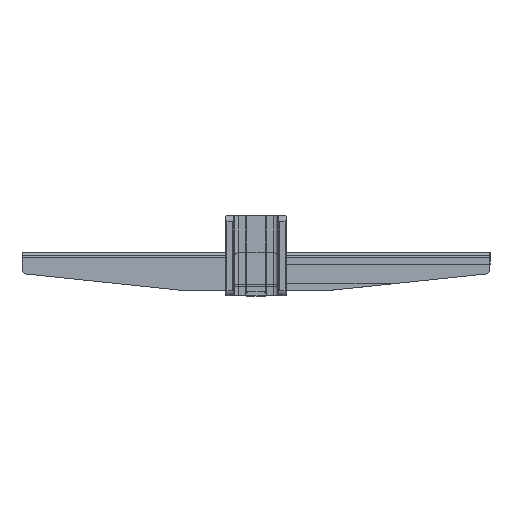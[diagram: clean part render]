
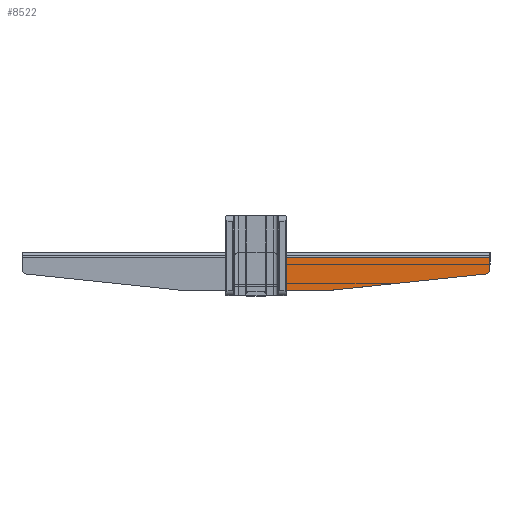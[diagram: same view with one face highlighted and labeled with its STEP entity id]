
A CAD part, front view. The second image highlights one B-rep face of the part: STEP entity #8522.
In plain terms, the highlighted planar face has unit normal (0, -1, 0).
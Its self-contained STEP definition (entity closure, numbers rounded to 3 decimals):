
#9 = DIRECTION ( 'NONE',  ( 0., -1., 0. ) ) ;
#100 = DIRECTION ( 'NONE',  ( 0., 0., 1. ) ) ;
#251 = DIRECTION ( 'NONE',  ( -1., 0., 0. ) ) ;
#340 = LINE ( 'NONE', #17201, #13267 ) ;
#350 = VECTOR ( 'NONE', #14724, 1000. ) ;
#358 = EDGE_CURVE ( 'NONE', #4128, #2454, #17397, .T. ) ;
#372 = AXIS2_PLACEMENT_3D ( 'NONE', #5702, #9, #100 ) ;
#647 = CARTESIAN_POINT ( 'NONE',  ( 37.5, 5118.25, 1578. ) ) ;
#666 = VECTOR ( 'NONE', #6992, 1000. ) ;
#812 = CARTESIAN_POINT ( 'NONE',  ( 157., 5118.25, 1590.223 ) ) ;
#999 = CARTESIAN_POINT ( 'NONE',  ( 37.5, 5118.25, 1581.8 ) ) ;
#1054 = DIRECTION ( 'NONE',  ( 0., 0., -1. ) ) ;
#1185 = DIRECTION ( 'NONE',  ( 0., 0., 1. ) ) ;
#1460 = EDGE_CURVE ( 'NONE', #14832, #15021, #8102, .T. ) ;
#1659 = DIRECTION ( 'NONE',  ( 0., 0., -1. ) ) ;
#1777 = CARTESIAN_POINT ( 'NONE',  ( 37.5, 5118.25, 1596.8 ) ) ;
#1953 = LINE ( 'NONE', #11577, #12627 ) ;
#2018 = DIRECTION ( 'NONE',  ( 0., -1., 0. ) ) ;
#2317 = DIRECTION ( 'NONE',  ( 0., 0., 1. ) ) ;
#2450 = CARTESIAN_POINT ( 'NONE',  ( 556.85, 5118.25, 1577.8 ) ) ;
#2454 = VERTEX_POINT ( 'NONE', #10913 ) ;
#2515 = EDGE_CURVE ( 'NONE', #9038, #11850, #12763, .T. ) ;
#2583 = CARTESIAN_POINT ( 'NONE',  ( 36.2, 5118.25, 1582.3 ) ) ;
#2624 = CARTESIAN_POINT ( 'NONE',  ( 37.35, 5118.25, 1581.8 ) ) ;
#3083 = EDGE_CURVE ( 'NONE', #6850, #14832, #4409, .T. ) ;
#3681 = DIRECTION ( 'NONE',  ( 0., 0., 1. ) ) ;
#3831 = VERTEX_POINT ( 'NONE', #5420 ) ;
#3847 = LINE ( 'NONE', #2450, #13055 ) ;
#4128 = VERTEX_POINT ( 'NONE', #647 ) ;
#4409 = CIRCLE ( 'NONE', #6805, 0.5 ) ;
#4509 = VERTEX_POINT ( 'NONE', #17934 ) ;
#4533 = EDGE_CURVE ( 'NONE', #9875, #4509, #12336, .T. ) ;
#4710 = EDGE_CURVE ( 'NONE', #5818, #9875, #9504, .T. ) ;
#4723 = ORIENTED_EDGE ( 'NONE', *, *, #3083, .T. ) ;
#5163 = AXIS2_PLACEMENT_3D ( 'NONE', #16448, #6421, #16266 ) ;
#5183 = DIRECTION ( 'NONE',  ( 0.995, 0., 0.105 ) ) ;
#5420 = CARTESIAN_POINT ( 'NONE',  ( 36.2, 5118.25, 1592.8 ) ) ;
#5702 = CARTESIAN_POINT ( 'NONE',  ( 36.2, 5118.25, 1592.3 ) ) ;
#5818 = VERTEX_POINT ( 'NONE', #1777 ) ;
#5982 = CIRCLE ( 'NONE', #15568, 5. ) ;
#6032 = AXIS2_PLACEMENT_3D ( 'NONE', #6608, #8282, #1185 ) ;
#6294 = DIRECTION ( 'NONE',  ( 0., -1., 0. ) ) ;
#6421 = DIRECTION ( 'NONE',  ( 0., 1., 0. ) ) ;
#6608 = CARTESIAN_POINT ( 'NONE',  ( 37.7, 5118.25, 1578. ) ) ;
#6632 = ORIENTED_EDGE ( 'NONE', *, *, #16090, .T. ) ;
#6670 = ORIENTED_EDGE ( 'NONE', *, *, #1460, .T. ) ;
#6727 = ORIENTED_EDGE ( 'NONE', *, *, #18326, .T. ) ;
#6805 = AXIS2_PLACEMENT_3D ( 'NONE', #2583, #11081, #16985 ) ;
#6808 = CARTESIAN_POINT ( 'NONE',  ( 67.238, 5118.25, 1577.8 ) ) ;
#6850 = VERTEX_POINT ( 'NONE', #17965 ) ;
#6992 = DIRECTION ( 'NONE',  ( 1., 0., 0. ) ) ;
#7418 = CARTESIAN_POINT ( 'NONE',  ( 37.5, 5118.25, 1581.65 ) ) ;
#7605 = CARTESIAN_POINT ( 'NONE',  ( 160., 5118.25, 1596.8 ) ) ;
#7636 = VERTEX_POINT ( 'NONE', #10358 ) ;
#7641 = ORIENTED_EDGE ( 'NONE', *, *, #15864, .T. ) ;
#7702 = VERTEX_POINT ( 'NONE', #9273 ) ;
#7977 = LINE ( 'NONE', #12283, #14892 ) ;
#8060 = CARTESIAN_POINT ( 'NONE',  ( 35.7, 5118.25, 1599.8 ) ) ;
#8102 = LINE ( 'NONE', #999, #666 ) ;
#8207 = CIRCLE ( 'NONE', #11206, 0.15 ) ;
#8215 = EDGE_CURVE ( 'NONE', #15021, #13100, #8207, .T. ) ;
#8282 = DIRECTION ( 'NONE',  ( 0., -1., 0. ) ) ;
#8359 = EDGE_CURVE ( 'NONE', #4509, #3831, #340, .T. ) ;
#8522 = ADVANCED_FACE ( 'NONE', ( #10797 ), #13704, .T. ) ;
#8813 = ORIENTED_EDGE ( 'NONE', *, *, #358, .T. ) ;
#8999 = LINE ( 'NONE', #7605, #350 ) ;
#9019 = CARTESIAN_POINT ( 'NONE',  ( 556.85, 5118.25, 1599.8 ) ) ;
#9038 = VERTEX_POINT ( 'NONE', #12823 ) ;
#9273 = CARTESIAN_POINT ( 'NONE',  ( 160., 5118.25, 1596.8 ) ) ;
#9397 = CARTESIAN_POINT ( 'NONE',  ( 160., 5118.25, 1590.223 ) ) ;
#9504 = LINE ( 'NONE', #11104, #13787 ) ;
#9554 = ORIENTED_EDGE ( 'NONE', *, *, #4710, .T. ) ;
#9875 = VERTEX_POINT ( 'NONE', #10138 ) ;
#9883 = DIRECTION ( 'NONE',  ( 0., 1., 0. ) ) ;
#9989 = ORIENTED_EDGE ( 'NONE', *, *, #14827, .T. ) ;
#10138 = CARTESIAN_POINT ( 'NONE',  ( 37.5, 5118.25, 1592.95 ) ) ;
#10214 = CIRCLE ( 'NONE', #372, 0.5 ) ;
#10358 = CARTESIAN_POINT ( 'NONE',  ( 35.7, 5118.25, 1592.3 ) ) ;
#10511 = VECTOR ( 'NONE', #1659, 1000. ) ;
#10544 = EDGE_CURVE ( 'NONE', #15386, #2454, #3847, .T. ) ;
#10741 = VECTOR ( 'NONE', #1054, 1000. ) ;
#10797 = FACE_OUTER_BOUND ( 'NONE', #13269, .T. ) ;
#10847 = ORIENTED_EDGE ( 'NONE', *, *, #8359, .T. ) ;
#10913 = CARTESIAN_POINT ( 'NONE',  ( 37.7, 5118.25, 1577.8 ) ) ;
#11009 = DIRECTION ( 'NONE',  ( 0., 0., 1. ) ) ;
#11081 = DIRECTION ( 'NONE',  ( 0., -1., 0. ) ) ;
#11104 = CARTESIAN_POINT ( 'NONE',  ( 37.5, 5118.25, 1599.8 ) ) ;
#11206 = AXIS2_PLACEMENT_3D ( 'NONE', #15602, #9883, #11009 ) ;
#11269 = ORIENTED_EDGE ( 'NONE', *, *, #8215, .T. ) ;
#11320 = ORIENTED_EDGE ( 'NONE', *, *, #12188, .T. ) ;
#11577 = CARTESIAN_POINT ( 'NONE',  ( 160., 5118.25, 1599.8 ) ) ;
#11850 = VERTEX_POINT ( 'NONE', #9397 ) ;
#11912 = DIRECTION ( 'NONE',  ( 1., 0., 0. ) ) ;
#12188 = EDGE_CURVE ( 'NONE', #7636, #6850, #15083, .T. ) ;
#12283 = CARTESIAN_POINT ( 'NONE',  ( 556.85, 5118.25, 1629.233 ) ) ;
#12336 = CIRCLE ( 'NONE', #5163, 0.15 ) ;
#12589 = DIRECTION ( 'NONE',  ( 0., 0., -1. ) ) ;
#12627 = VECTOR ( 'NONE', #17305, 1000. ) ;
#12763 = CIRCLE ( 'NONE', #15771, 3. ) ;
#12823 = CARTESIAN_POINT ( 'NONE',  ( 157.314, 5118.25, 1587.24 ) ) ;
#12997 = ORIENTED_EDGE ( 'NONE', *, *, #14290, .T. ) ;
#13055 = VECTOR ( 'NONE', #13654, 1000. ) ;
#13100 = VERTEX_POINT ( 'NONE', #7418 ) ;
#13267 = VECTOR ( 'NONE', #251, 1000. ) ;
#13269 = EDGE_LOOP ( 'NONE', ( #14099, #6632, #6727, #17507, #13766, #7641, #9554, #17637, #10847, #9989, #11320, #4723, #6670, #11269, #12997, #8813 ) ) ;
#13654 = DIRECTION ( 'NONE',  ( -1., 0., 0. ) ) ;
#13704 = PLANE ( 'NONE',  #14794 ) ;
#13718 = DIRECTION ( 'NONE',  ( 0., -1., 0. ) ) ;
#13766 = ORIENTED_EDGE ( 'NONE', *, *, #15154, .F. ) ;
#13787 = VECTOR ( 'NONE', #12589, 1000. ) ;
#14099 = ORIENTED_EDGE ( 'NONE', *, *, #10544, .F. ) ;
#14290 = EDGE_CURVE ( 'NONE', #13100, #4128, #15881, .T. ) ;
#14336 = CARTESIAN_POINT ( 'NONE',  ( 67.761, 5118.25, 1577.827 ) ) ;
#14459 = VERTEX_POINT ( 'NONE', #14336 ) ;
#14472 = CARTESIAN_POINT ( 'NONE',  ( 37.5, 5118.25, 1582.3 ) ) ;
#14724 = DIRECTION ( 'NONE',  ( -1., 0., 0. ) ) ;
#14794 = AXIS2_PLACEMENT_3D ( 'NONE', #9019, #2018, #11912 ) ;
#14827 = EDGE_CURVE ( 'NONE', #3831, #7636, #10214, .T. ) ;
#14832 = VERTEX_POINT ( 'NONE', #15814 ) ;
#14892 = VECTOR ( 'NONE', #5183, 1000. ) ;
#15021 = VERTEX_POINT ( 'NONE', #2624 ) ;
#15083 = LINE ( 'NONE', #8060, #10741 ) ;
#15154 = EDGE_CURVE ( 'NONE', #7702, #11850, #1953, .T. ) ;
#15386 = VERTEX_POINT ( 'NONE', #6808 ) ;
#15568 = AXIS2_PLACEMENT_3D ( 'NONE', #16320, #6294, #3681 ) ;
#15602 = CARTESIAN_POINT ( 'NONE',  ( 37.35, 5118.25, 1581.65 ) ) ;
#15771 = AXIS2_PLACEMENT_3D ( 'NONE', #812, #13718, #2317 ) ;
#15814 = CARTESIAN_POINT ( 'NONE',  ( 36.2, 5118.25, 1581.8 ) ) ;
#15864 = EDGE_CURVE ( 'NONE', #7702, #5818, #8999, .T. ) ;
#15881 = LINE ( 'NONE', #14472, #10511 ) ;
#16090 = EDGE_CURVE ( 'NONE', #15386, #14459, #5982, .T. ) ;
#16266 = DIRECTION ( 'NONE',  ( 0., 0., 1. ) ) ;
#16320 = CARTESIAN_POINT ( 'NONE',  ( 67.238, 5118.25, 1582.8 ) ) ;
#16448 = CARTESIAN_POINT ( 'NONE',  ( 37.35, 5118.25, 1592.95 ) ) ;
#16985 = DIRECTION ( 'NONE',  ( 0., 0., 1. ) ) ;
#17201 = CARTESIAN_POINT ( 'NONE',  ( 37.5, 5118.25, 1592.8 ) ) ;
#17305 = DIRECTION ( 'NONE',  ( 0., 0., -1. ) ) ;
#17397 = CIRCLE ( 'NONE', #6032, 0.2 ) ;
#17507 = ORIENTED_EDGE ( 'NONE', *, *, #2515, .T. ) ;
#17637 = ORIENTED_EDGE ( 'NONE', *, *, #4533, .T. ) ;
#17934 = CARTESIAN_POINT ( 'NONE',  ( 37.35, 5118.25, 1592.8 ) ) ;
#17965 = CARTESIAN_POINT ( 'NONE',  ( 35.7, 5118.25, 1582.3 ) ) ;
#18326 = EDGE_CURVE ( 'NONE', #14459, #9038, #7977, .T. ) ;
